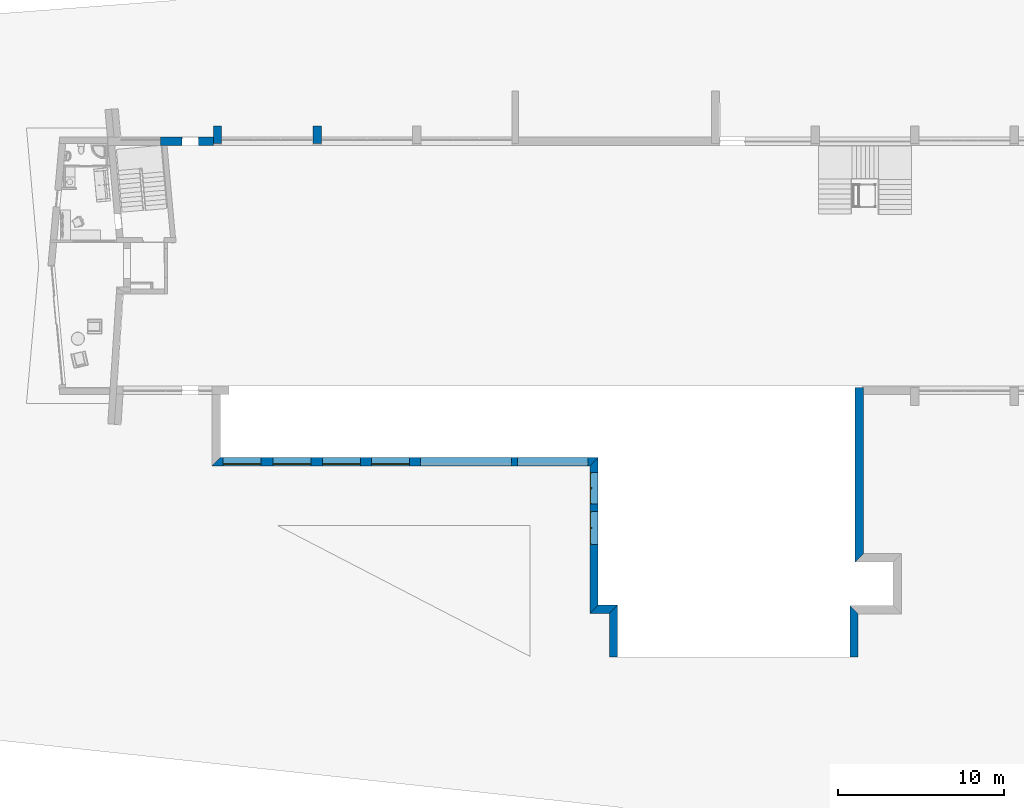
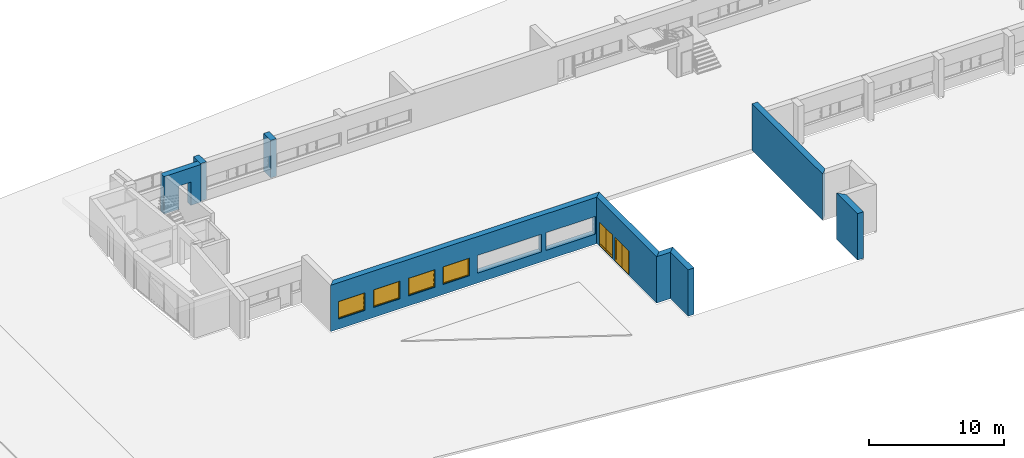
# One storey, part 3 of 36: 9 walls, 4 doors, 4 windows, 11 openings.
"""IFC2X3 building model written with IfcOpenShell, lengths in millimetres."""

from ifc_helpers import new_model, entity, si_unit, converted_unit, money_unit, direction, frame, origin_with_axes, place, context, subcontext, project, spatial, polyline, outline, extrude, open_shell, faceted_brep, surface_model, source, transform, mapped, material, material_list, layer, layer_set, layer_usage, type_object, element, fill, save


model = new_model("IFC2X3")

# Units and contexts
model_context = context("Model", 3, precision=1e-05, world=origin_with_axes(), true_north=direction((0.0, 1.0)))
body_context = subcontext(model_context, "Body", "Model", "MODEL_VIEW")
ifc_project = project(units=[si_unit("LENGTHUNIT", "METRE", prefix="MILLI"), si_unit("AREAUNIT", "SQUARE_METRE"), si_unit("VOLUMEUNIT", "CUBIC_METRE"), converted_unit("PLANEANGLEUNIT", "DEGREE", entity("IfcPlaneAngleMeasure", 0.0174532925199), si_unit("PLANEANGLEUNIT", "RADIAN"), dimensions=[0, 0, 0, 0, 0, 0, 0]), si_unit("SOLIDANGLEUNIT", "STERADIAN"), money_unit("USD"), converted_unit("TIMEUNIT", "Year", entity("IfcTimeMeasure", 31556926.0), si_unit("TIMEUNIT", "SECOND"), dimensions=[0, 0, 0, 0, 0, 0, 0]), si_unit("MASSUNIT", "GRAM"), si_unit("THERMODYNAMICTEMPERATUREUNIT", "DEGREE_CELSIUS"), si_unit("LUMINOUSINTENSITYUNIT", "LUMEN")], contexts=[model_context])

# Site, building, storey
site_placement = place(None, origin_with_axes())
site = spatial("IfcSite", under=ifc_project, at=site_placement, Name="Site", CompositionType="ELEMENT")
building_placement = place(site_placement, origin_with_axes())
building = spatial("IfcBuilding", under=site, at=building_placement, Name="Building", CompositionType="ELEMENT")
storey_placement = place(building_placement, frame((0.0, 0.0, -3400.0), z_axis=(0.0, 0.0, 1.0), x_axis=(1.0, 0.0, 0.0)))
storey = spatial("IfcBuildingStorey", under=building, at=storey_placement, Name="1KORRUS", CompositionType="ELEMENT", Elevation=-3400.0)

# Walls
ifc_material_1 = material(Name="Olemasolevad seinad tellis, uus viimistlus")
ifc_layer = layer(ifc_material_1, 500.0, ventilated="UNKNOWN")
ifc_layer_set = layer_set([ifc_layer], Name="Olemasolevad seinad tellis, uus viimistlus 500")
ifc_layer_usage_1 = layer_usage(ifc_layer_set, "AXIS2", "POSITIVE", -400.0)
wall_type = type_object("IfcWallType", Name="Olemasolevad seinad tellis, uus viimistlus 500", PredefinedType="NOTDEFINED")
wall_1_placement = place(storey_placement, frame((-9331.84569337, -19738.87569, 0.0), z_axis=(0.0, 0.0, 1.0), x_axis=(0.0, -1.0, 0.0)))
element("IfcWallStandardCase", 1, at=wall_1_placement, inside=storey, type_object=wall_type, material=ifc_layer_usage_1, Name="VS1", ObjectType="VS1", context=body_context, shape_type="SweptSolid", body=[
    extrude(outline(polyline([(0.0, -400.0), (10496.3480623, -400.0), (9996.3480623, 100.0), (0.0, 100.0), (0.0, -400.0)])), origin_with_axes(), (0.0, 0.0, 1.0), 4200.0),
])
ifc_layer_usage_2 = layer_usage(ifc_layer_set, "AXIS2", "POSITIVE", -100.0)
wall_2_placement = place(storey_placement, frame((-9948.89310513, -32962.3136981, 0.0), z_axis=(0.0, 0.0, 1.0), x_axis=(0.0, -1.0, 0.0)))
element("IfcWallStandardCase", 2, at=wall_2_placement, inside=storey, type_object=wall_type, material=ifc_layer_usage_2, Name="VS1", ObjectType="VS1", context=body_context, shape_type="SweptSolid", body=[
    extrude(outline(polyline([(-100.0, -100.0), (2989.87278855, -100.0), (2989.87278855, 400.0), (400.0, 400.0), (-100.0, -100.0)])), origin_with_axes(), (0.0, 0.0, 1.0), 4200.0),
])
ifc_layer_usage_3 = layer_usage(ifc_layer_set, "AXIS2", "POSITIVE", -100.0)
wall_3_placement = place(storey_placement, frame((-25610.3539592, -33226.0682548, 0.0), z_axis=(0.0, 0.0, 1.0), x_axis=(1.0, 0.0, 0.0)))
element("IfcWallStandardCase", 3, at=wall_3_placement, inside=storey, type_object=wall_type, material=ifc_layer_usage_3, Name="VS1", ObjectType="VS1", context=body_context, shape_type="SweptSolid", body=[
    extrude(outline(polyline([(-100.0, -100.0), (1069.9981382, -100.0), (1569.9981382, 400.0), (400.0, 400.0), (-100.0, -100.0)])), origin_with_axes(), (0.0, 0.0, 1.0), 4200.0),
])

# Wall, openings, windows
ifc_layer_usage_4 = layer_usage(ifc_layer_set, "AXIS2", "POSITIVE", -100.0)
wall_4_placement = place(storey_placement, frame((-48370.2967033, -24345.6041088, 0.0), z_axis=(0.0, 0.0, 1.0), x_axis=(1.0, 0.0, 0.0)))
wall_4 = element("IfcWallStandardCase", 4, at=wall_4_placement, inside=storey, type_object=wall_type, material=ifc_layer_usage_4, Name="VS1", ObjectType="VS1", context=body_context, shape_type="SweptSolid", body=[
    extrude(outline(polyline([(-100.0, -100.0), (22659.9427441, -100.0), (23159.9427441, 400.0), (400.0, 400.0), (-100.0, -100.0)])), origin_with_axes(), (0.0, 0.0, 1.0), 4200.0),
])
opening_1_placement = place(wall_4_placement, frame((1708.45235668, 0.0, 900.0), z_axis=(0.0, 0.0, 1.0), x_axis=(1.0, 0.0, 0.0)))
opening_1 = element("IfcOpeningElement", 5, at=opening_1_placement, cuts=wall_4, Name="Olemasolevad aknad jäävad", context=body_context, shape_type="SweptSolid", body=[
    extrude(outline(polyline([(1140.651, 1600.0), (-1140.651, 1600.0), (-1140.651, 0.0), (1140.651, 0.0), (1140.651, 1600.0)])), frame((0.0, 0.0, 0.0), z_axis=(0.0, 1.0, 0.0), x_axis=(-1.0, 0.0, 0.0)), (0.0, 0.0, 1.0), 900.0),
    extrude(outline(polyline([(1140.651, 0.0), (-1140.651, 0.0), (-1140.651, -1600.0), (1140.651, -1600.0), (1140.651, 0.0)])), frame((0.0, 0.0, 0.0), z_axis=(0.0, -1.0, 0.0), x_axis=(-1.0, 0.0, 0.0)), (0.0, 0.0, 1.0), 600.0),
])
opening_2_placement = place(wall_4_placement, frame((4714.99468383, 0.0, 900.0), z_axis=(0.0, 0.0, 1.0), x_axis=(1.0, 0.0, 0.0)))
opening_2 = element("IfcOpeningElement", 6, at=opening_2_placement, cuts=wall_4, Name="Olemasolevad aknad jäävad", context=body_context, shape_type="SweptSolid", body=[
    extrude(outline(polyline([(1140.651, 1600.0), (-1140.651, 1600.0), (-1140.651, 0.0), (1140.651, 0.0), (1140.651, 1600.0)])), frame((0.0, 0.0, 0.0), z_axis=(0.0, 1.0, 0.0), x_axis=(-1.0, 0.0, 0.0)), (0.0, 0.0, 1.0), 900.0),
    extrude(outline(polyline([(1140.651, 0.0), (-1140.651, 0.0), (-1140.651, -1600.0), (1140.651, -1600.0), (1140.651, 0.0)])), frame((0.0, 0.0, 0.0), z_axis=(0.0, -1.0, 0.0), x_axis=(-1.0, 0.0, 0.0)), (0.0, 0.0, 1.0), 600.0),
])
opening_3_placement = place(wall_4_placement, frame((7700.65100477, 0.0, 900.0), z_axis=(0.0, 0.0, 1.0), x_axis=(1.0, 0.0, 0.0)))
opening_3 = element("IfcOpeningElement", 7, at=opening_3_placement, cuts=wall_4, Name="Olemasolevad aknad jäävad", context=body_context, shape_type="SweptSolid", body=[
    extrude(outline(polyline([(1140.651, 1600.0), (-1140.651, 1600.0), (-1140.651, 0.0), (1140.651, 0.0), (1140.651, 1600.0)])), frame((0.0, 0.0, 0.0), z_axis=(0.0, 1.0, 0.0), x_axis=(-1.0, 0.0, 0.0)), (0.0, 0.0, 1.0), 900.0),
    extrude(outline(polyline([(1140.651, 0.0), (-1140.651, 0.0), (-1140.651, -1600.0), (1140.651, -1600.0), (1140.651, 0.0)])), frame((0.0, 0.0, 0.0), z_axis=(0.0, -1.0, 0.0), x_axis=(-1.0, 0.0, 0.0)), (0.0, 0.0, 1.0), 600.0),
])
opening_4_placement = place(wall_4_placement, frame((10657.6510048, 0.0, 900.0), z_axis=(0.0, 0.0, 1.0), x_axis=(1.0, 0.0, 0.0)))
opening_4 = element("IfcOpeningElement", 8, at=opening_4_placement, cuts=wall_4, Name="Olemasolevad aknad jäävad", context=body_context, shape_type="SweptSolid", body=[
    extrude(outline(polyline([(1140.651, 1600.0), (-1140.651, 1600.0), (-1140.651, 0.0), (1140.651, 0.0), (1140.651, 1600.0)])), frame((0.0, 0.0, 0.0), z_axis=(0.0, 1.0, 0.0), x_axis=(-1.0, 0.0, 0.0)), (0.0, 0.0, 1.0), 900.0),
    extrude(outline(polyline([(1140.651, 0.0), (-1140.651, 0.0), (-1140.651, -1600.0), (1140.651, -1600.0), (1140.651, 0.0)])), frame((0.0, 0.0, 0.0), z_axis=(0.0, -1.0, 0.0), x_axis=(-1.0, 0.0, 0.0)), (0.0, 0.0, 1.0), 600.0),
])
opening_5_placement = place(wall_4_placement, frame((15200.75, 0.0, 900.0), z_axis=(0.0, 0.0, 1.0), x_axis=(1.0, 0.0, 0.0)))
element("IfcOpeningElement", 9, at=opening_5_placement, cuts=wall_4, Name="Olemasolevad aknad jäävad", context=body_context, shape_type="SweptSolid", body=[
    extrude(outline(polyline([(2750.75, 1600.0), (-2750.75, 1600.0), (-2750.75, 0.0), (2750.75, 0.0), (2750.75, 1600.0)])), frame((0.0, 0.0, 0.0), z_axis=(0.0, 1.0, 0.0), x_axis=(-1.0, 0.0, 0.0)), (0.0, 0.0, 1.0), 900.0),
    extrude(outline(polyline([(2750.75, 0.0), (-2750.75, 0.0), (-2750.75, -1600.0), (2750.75, -1600.0), (2750.75, 0.0)])), frame((0.0, 0.0, 0.0), z_axis=(0.0, -1.0, 0.0), x_axis=(-1.0, 0.0, 0.0)), (0.0, 0.0, 1.0), 600.0),
])
opening_6_placement = place(wall_4_placement, frame((20428.4145939, 0.0, 900.0), z_axis=(0.0, 0.0, 1.0), x_axis=(1.0, 0.0, 0.0)))
element("IfcOpeningElement", 10, at=opening_6_placement, cuts=wall_4, Name="Olemasolevad aknad jäävad", context=body_context, shape_type="SweptSolid", body=[
    extrude(outline(polyline([(2112.585, 1600.0), (-2112.585, 1600.0), (-2112.585, 0.0), (2112.585, 0.0), (2112.585, 1600.0)])), frame((0.0, 0.0, 0.0), z_axis=(0.0, 1.0, 0.0), x_axis=(-1.0, 0.0, 0.0)), (0.0, 0.0, 1.0), 900.0),
    extrude(outline(polyline([(2112.585, 0.0), (-2112.585, 0.0), (-2112.585, -1600.0), (2112.585, -1600.0), (2112.585, 0.0)])), frame((0.0, 0.0, 0.0), z_axis=(0.0, -1.0, 0.0), x_axis=(-1.0, 0.0, 0.0)), (0.0, 0.0, 1.0), 600.0),
])
ifc_material_2 = material(Name="Background")
ifc_material_list = material_list([ifc_material_2])
window_style = type_object("IfcWindowStyle", Name="Window 19", ConstructionType="NOTDEFINED", OperationType="SINGLE_PANEL", ParameterTakesPrecedence=False, Sizeable=False)
shared_shape_1 = source(origin_with_axes(), body_context, "Body", "SurfaceModel", [
    faceted_brep([(1115.651, -100.0, 1550.0), (1115.651, -125.0, 1550.0), (1090.651, -125.0, 1550.0), (1090.651, -150.0, 1550.0), (1140.651, -150.0, 1550.0), (1140.651, -100.0, 1550.0), (1115.651, -100.0, 50.0), (1115.651, -125.0, 50.0), (1090.651, -125.0, 50.0), (1090.651, -150.0, 50.0), (1140.651, -150.0, 50.0), (1140.651, -100.0, 50.0)], [[[0, 1, 2, 3, 4, 5]], [[1, 0, 6, 7]], [[8, 2, 1, 7]], [[2, 8, 9, 3]], [[4, 3, 9, 10]], [[5, 4, 10, 11]], [[6, 0, 5, 11]], [[7, 6, 11, 10, 9, 8]]]),
    faceted_brep([(-1090.651, -125.0, 1550.0), (-1115.651, -125.0, 1550.0), (-1115.651, -100.0, 1550.0), (-1140.651, -100.0, 1550.0), (-1140.651, -150.0, 1550.0), (-1090.651, -150.0, 1550.0), (-1090.651, -125.0, 50.0), (-1115.651, -125.0, 50.0), (-1115.651, -100.0, 50.0), (-1140.651, -100.0, 50.0), (-1140.651, -150.0, 50.0), (-1090.651, -150.0, 50.0)], [[[0, 1, 2, 3, 4, 5]], [[1, 0, 6, 7]], [[8, 2, 1, 7]], [[2, 8, 9, 3]], [[9, 10, 4, 3]], [[10, 11, 5, 4]], [[6, 0, 5, 11]], [[7, 6, 11, 10, 9, 8]]]),
    faceted_brep([(-1090.651, -125.0, 50.0), (-1115.651, -125.0, 50.0), (-1115.651, -100.0, 50.0), (-1140.651, -100.0, 50.0), (-1140.651, -150.0, 50.0), (-1090.651, -150.0, 50.0), (1090.651, -125.0, 50.0), (1115.651, -125.0, 50.0), (1115.651, -125.0, 25.0), (-1115.651, -125.0, 25.0), (-1115.651, -100.0, 25.0), (1115.651, -100.0, 25.0), (1115.651, -100.0, 50.0), (1140.651, -100.0, 50.0), (1140.651, -100.0, 0.0), (-1140.651, -100.0, 0.0), (-1140.651, -150.0, 0.0), (1140.651, -150.0, 50.0), (1090.651, -150.0, 50.0), (1140.651, -150.0, 0.0)], [[[0, 1, 2, 3, 4, 5]], [[1, 0, 6, 7, 8, 9]], [[10, 2, 1, 9]], [[11, 12, 13, 14, 15, 3, 2, 10]], [[15, 16, 4, 3]], [[17, 18, 5, 4, 16, 19]], [[6, 0, 5, 18]], [[7, 6, 18, 17, 13, 12]], [[7, 12, 11, 8]], [[11, 10, 9, 8]], [[13, 17, 19, 14]], [[14, 19, 16, 15]]]),
    faceted_brep([(1115.651, -100.0, 1550.0), (1115.651, -100.0, 1575.0), (-1115.651, -100.0, 1575.0), (-1115.651, -100.0, 1550.0), (-1140.651, -100.0, 1550.0), (-1140.651, -100.0, 1600.0), (1140.651, -100.0, 1600.0), (1140.651, -100.0, 1550.0), (1115.651, -125.0, 1550.0), (1115.651, -125.0, 1575.0), (-1115.651, -125.0, 1575.0), (-1115.651, -125.0, 1550.0), (-1090.651, -125.0, 1550.0), (-1090.651, -150.0, 1550.0), (-1140.651, -150.0, 1550.0), (-1140.651, -150.0, 1600.0), (1140.651, -150.0, 1600.0), (1140.651, -150.0, 1550.0), (1090.651, -150.0, 1550.0), (1090.651, -125.0, 1550.0)], [[[0, 1, 2, 3, 4, 5, 6, 7]], [[1, 0, 8, 9]], [[2, 1, 9, 10]], [[3, 2, 10, 11]], [[11, 12, 13, 14, 4, 3]], [[4, 14, 15, 5]], [[5, 15, 16, 6]], [[6, 16, 17, 7]], [[8, 0, 7, 17, 18, 19]], [[12, 11, 10, 9, 8, 19]], [[12, 19, 18, 13]], [[14, 13, 18, 17, 16, 15]]]),
    faceted_brep([(1065.651, -125.0, 1525.0), (1115.651, -125.0, 1525.0), (1115.651, -75.0, 1525.0), (1065.651, -75.0, 1525.0), (1065.651, -125.0, 75.0), (1115.651, -125.0, 75.0), (1115.651, -75.0, 75.0), (1065.651, -75.0, 75.0)], [[[0, 1, 2, 3]], [[0, 4, 5, 1]], [[1, 5, 6, 2]], [[3, 2, 6, 7]], [[4, 0, 3, 7]], [[5, 4, 7, 6]]]),
    faceted_brep([(-1065.651, -125.0, 75.0), (-1115.651, -125.0, 75.0), (-1115.651, -75.0, 75.0), (-1065.651, -75.0, 75.0), (-1065.651, -125.0, 1525.0), (-1115.651, -125.0, 1525.0), (-1115.651, -75.0, 1525.0), (-1065.651, -75.0, 1525.0)], [[[0, 1, 2, 3]], [[0, 4, 5, 1]], [[1, 5, 6, 2]], [[3, 2, 6, 7]], [[4, 0, 3, 7]], [[5, 4, 7, 6]]]),
    faceted_brep([(-1115.651, -125.0, 25.0), (-1115.651, -125.0, 75.0), (-1115.651, -75.0, 75.0), (-1115.651, -75.0, 25.0), (1115.651, -125.0, 25.0), (1115.651, -125.0, 75.0), (1065.651, -125.0, 75.0), (-1065.651, -125.0, 75.0), (-1065.651, -75.0, 75.0), (1065.651, -75.0, 75.0), (1115.651, -75.0, 75.0), (1115.651, -75.0, 25.0)], [[[0, 1, 2, 3]], [[0, 4, 5, 6, 7, 1]], [[1, 7, 8, 2]], [[3, 2, 8, 9, 10, 11]], [[4, 0, 3, 11]], [[5, 4, 11, 10]], [[6, 5, 10, 9]], [[7, 6, 9, 8]]]),
    faceted_brep([(1115.651, -125.0, 1575.0), (1115.651, -125.0, 1525.0), (1115.651, -75.0, 1525.0), (1115.651, -75.0, 1575.0), (-1115.651, -125.0, 1575.0), (-1115.651, -125.0, 1525.0), (-1065.651, -125.0, 1525.0), (1065.651, -125.0, 1525.0), (1065.651, -75.0, 1525.0), (-1065.651, -75.0, 1525.0), (-1115.651, -75.0, 1525.0), (-1115.651, -75.0, 1575.0)], [[[0, 1, 2, 3]], [[0, 4, 5, 6, 7, 1]], [[1, 7, 8, 2]], [[3, 2, 8, 9, 10, 11]], [[4, 0, 3, 11]], [[5, 4, 11, 10]], [[6, 5, 10, 9]], [[7, 6, 9, 8]]]),
    surface_model("IfcShellBasedSurfaceModel", [(1065.651, -110.0, 75.0), (1065.651, -110.0, 1525.0), (-1065.651, -110.0, 1525.0), (-1065.651, -110.0, 75.0)], [open_shell([[[0, 1, 2, 3]]])]),
    surface_model("IfcShellBasedSurfaceModel", [(1065.651, -90.0, 75.0), (-1065.651, -90.0, 75.0), (-1065.651, -90.0, 1525.0), (1065.651, -90.0, 1525.0)], [open_shell([[[0, 1, 2, 3]]])]),
])
window_1_placement = place(opening_1_placement, frame((1140.65100478, 0.0, 0.0), z_axis=(0.0, 0.0, 1.0), x_axis=(-1.0, 0.0, 0.0)))
window_1 = element("IfcWindow", 11, at=window_1_placement, inside=storey, type_object=window_style, material=ifc_material_list, Name="Olemasolevad aknad jäävad", ObjectType="Olemasolevad aknad jäävad", OverallHeight=1600.0, OverallWidth=2281.3, context=body_context, shape_type="MappedRepresentation", body=[
    mapped(shared_shape_1, transform((1140.65100478, 100.0, 0.0))),
])
fill(opening_1, window_1)
window_2_placement = place(opening_2_placement, frame((1140.65100478, 0.0, 0.0), z_axis=(0.0, 0.0, 1.0), x_axis=(-1.0, 0.0, 0.0)))
window_2 = element("IfcWindow", 12, at=window_2_placement, inside=storey, type_object=window_style, material=ifc_material_list, Name="Olemasolevad aknad jäävad", ObjectType="Olemasolevad aknad jäävad", OverallHeight=1600.0, OverallWidth=2281.3, context=body_context, shape_type="MappedRepresentation", body=[
    mapped(shared_shape_1, transform((1140.65100478, 100.0, 0.0))),
])
fill(opening_2, window_2)
window_3_placement = place(opening_3_placement, frame((1140.65100478, 0.0, 0.0), z_axis=(0.0, 0.0, 1.0), x_axis=(-1.0, 0.0, 0.0)))
window_3 = element("IfcWindow", 13, at=window_3_placement, inside=storey, type_object=window_style, material=ifc_material_list, Name="Olemasolevad aknad jäävad", ObjectType="Olemasolevad aknad jäävad", OverallHeight=1600.0, OverallWidth=2281.3, context=body_context, shape_type="MappedRepresentation", body=[
    mapped(shared_shape_1, transform((1140.65100478, 100.0, 0.0))),
])
fill(opening_3, window_3)
window_4_placement = place(opening_4_placement, frame((1140.65100478, 0.0, 0.0), z_axis=(0.0, 0.0, 1.0), x_axis=(-1.0, 0.0, 0.0)))
window_4 = element("IfcWindow", 14, at=window_4_placement, inside=storey, type_object=window_style, material=ifc_material_list, Name="Olemasolevad aknad jäävad", ObjectType="Olemasolevad aknad jäävad", OverallHeight=1600.0, OverallWidth=2281.3, context=body_context, shape_type="MappedRepresentation", body=[
    mapped(shared_shape_1, transform((1140.65100478, 100.0, 0.0))),
])
fill(opening_4, window_4)

# Wall, openings, doors
ifc_layer_usage_5 = layer_usage(ifc_layer_set, "AXIS2", "POSITIVE", -100.0)
wall_5_placement = place(storey_placement, frame((-25610.3539592, -24345.6041088, 0.0), z_axis=(0.0, 0.0, 1.0), x_axis=(0.0, -1.0, 0.0)))
wall_5 = element("IfcWallStandardCase", 15, at=wall_5_placement, inside=storey, type_object=wall_type, material=ifc_layer_usage_5, Name="VS1", ObjectType="VS1", context=body_context, shape_type="SweptSolid", body=[
    extrude(outline(polyline([(100.0, -100.0), (8980.464146, -100.0), (8480.464146, 400.0), (-400.0, 400.0), (100.0, -100.0)])), origin_with_axes(), (0.0, 0.0, 1.0), 4200.0),
])
opening_7_placement = place(wall_5_placement, frame((1002.12965118, 0.0, 100.0), z_axis=(0.0, 0.0, 1.0), x_axis=(1.0, 0.0, 0.0)))
opening_7 = element("IfcOpeningElement", 16, at=opening_7_placement, cuts=wall_5, Name="ava", context=body_context, shape_type="SweptSolid", body=[
    extrude(outline(polyline([(-500.0, -2100.0), (500.0, -2100.0), (500.0, 0.0), (-500.0, 0.0), (-500.0, -2100.0)])), frame((0.0, 500.0, 0.0), z_axis=(0.0, -1.0, 0.0), x_axis=(-1.0, 0.0, 0.0)), (0.0, 0.0, 1.0), 1500.0),
])
opening_8_placement = place(wall_5_placement, frame((1899.91659609, 0.0, 100.0), z_axis=(0.0, 0.0, 1.0), x_axis=(1.0, 0.0, 0.0)))
opening_8 = element("IfcOpeningElement", 17, at=opening_8_placement, cuts=wall_5, Name="ava", context=body_context, shape_type="SweptSolid", body=[
    extrude(outline(polyline([(-500.0, -2100.0), (500.0, -2100.0), (500.0, 0.0), (-500.0, 0.0), (-500.0, -2100.0)])), frame((0.0, 500.0, 0.0), z_axis=(0.0, 1.0, 0.0), x_axis=(1.0, 0.0, 0.0)), (0.0, 0.0, -1.0), 1500.0),
])
opening_9_placement = place(wall_5_placement, frame((3340.54885974, 0.0, 100.0), z_axis=(0.0, 0.0, 1.0), x_axis=(1.0, 0.0, 0.0)))
opening_9 = element("IfcOpeningElement", 18, at=opening_9_placement, cuts=wall_5, Name="ava", context=body_context, shape_type="SweptSolid", body=[
    extrude(outline(polyline([(-500.0, -2100.0), (500.0, -2100.0), (500.0, 0.0), (-500.0, 0.0), (-500.0, -2100.0)])), frame((0.0, 500.0, 0.0), z_axis=(0.0, -1.0, 0.0), x_axis=(-1.0, 0.0, 0.0)), (0.0, 0.0, 1.0), 1500.0),
])
opening_10_placement = place(wall_5_placement, frame((4342.7322369, 0.0, 100.0), z_axis=(0.0, 0.0, 1.0), x_axis=(1.0, 0.0, 0.0)))
opening_10 = element("IfcOpeningElement", 19, at=opening_10_placement, cuts=wall_5, Name="ava", context=body_context, shape_type="SweptSolid", body=[
    extrude(outline(polyline([(-500.0, -2100.0), (500.0, -2100.0), (500.0, 0.0), (-500.0, 0.0), (-500.0, -2100.0)])), frame((0.0, 500.0, 0.0), z_axis=(0.0, 1.0, 0.0), x_axis=(1.0, 0.0, 0.0)), (0.0, 0.0, -1.0), 1500.0),
])
door_style_1 = type_object("IfcDoorStyle", Name="Door 19", ConstructionType="NOTDEFINED", OperationType="SINGLE_SWING_RIGHT", ParameterTakesPrecedence=False, Sizeable=False)
shared_shape_2 = source(origin_with_axes(), body_context, "Body", "SurfaceModel", [
    faceted_brep([(-460.0, -40.0, 0.0), (-460.0, -40.0, 2060.0), (-460.0, -115.0, 2060.0), (-460.0, -115.0, 0.0), (-472.0, -40.0, 2060.0), (-472.0, -40.0, 0.0), (-472.0, 0.0, 2060.0), (-500.0, 0.0, 2060.0), (-500.0, -115.0, 2060.0), (-500.0, -115.0, 0.0), (-500.0, 0.0, 0.0), (-472.0, 0.0, 0.0)], [[[0, 1, 2, 3]], [[4, 1, 0, 5]], [[4, 6, 7, 8, 2, 1]], [[2, 8, 9, 3]], [[5, 0, 3, 9, 10, 11]], [[6, 4, 5, 11]], [[6, 11, 10, 7]], [[9, 8, 7, 10]]]),
    faceted_brep([(472.0, -40.0, 2060.0), (460.0, -40.0, 2060.0), (460.0, -115.0, 2060.0), (500.0, -115.0, 2060.0), (500.0, 0.0, 2060.0), (472.0, 0.0, 2060.0), (472.0, -40.0, 0.0), (460.0, -40.0, 0.0), (460.0, -115.0, 0.0), (500.0, -115.0, 0.0), (500.0, 0.0, 0.0), (472.0, 0.0, 0.0)], [[[0, 1, 2, 3, 4, 5]], [[1, 0, 6, 7]], [[1, 7, 8, 2]], [[2, 8, 9, 3]], [[3, 9, 10, 4]], [[11, 5, 4, 10]], [[0, 5, 11, 6]], [[6, 11, 10, 9, 8, 7]]]),
    faceted_brep([(-472.0, 0.0, 2072.0), (-472.0, 0.0, 2060.0), (-500.0, 0.0, 2060.0), (-500.0, 0.0, 2100.0), (500.0, 0.0, 2100.0), (500.0, 0.0, 2060.0), (472.0, 0.0, 2060.0), (472.0, 0.0, 2072.0), (-472.0, -40.0, 2072.0), (-472.0, -40.0, 2060.0), (-460.0, -40.0, 2060.0), (-460.0, -115.0, 2060.0), (-500.0, -115.0, 2060.0), (-500.0, -115.0, 2100.0), (500.0, -115.0, 2100.0), (500.0, -115.0, 2060.0), (472.0, -40.0, 2060.0), (460.0, -115.0, 2060.0), (460.0, -40.0, 2060.0), (472.0, -40.0, 2072.0)], [[[0, 1, 2, 3, 4, 5, 6, 7]], [[1, 0, 8, 9]], [[9, 10, 11, 12, 2, 1]], [[12, 13, 3, 2]], [[13, 14, 4, 3]], [[14, 15, 5, 4]], [[16, 6, 5, 15, 17, 18]], [[7, 6, 16, 19]], [[0, 7, 19, 8]], [[16, 18, 10, 9, 8, 19]], [[10, 18, 17, 11]], [[15, 14, 13, 12, 11, 17]]]),
    faceted_brep([(472.0, 0.0, 200.0), (472.0, -40.0, 200.0), (372.0, -40.0, 200.0), (372.0, 0.0, 200.0), (472.0, 0.0, 1972.0), (472.0, -40.0, 1972.0), (372.0, -40.0, 1972.0), (372.0, 0.0, 1972.0)], [[[0, 1, 2, 3]], [[4, 5, 1, 0]], [[1, 5, 6, 2]], [[3, 2, 6, 7]], [[0, 3, 7, 4]], [[7, 6, 5, 4]]]),
    faceted_brep([(-472.0, 0.0, 200.0), (-472.0, -40.0, 200.0), (-472.0, -40.0, 1972.0), (-472.0, 0.0, 1972.0), (-372.0, 0.0, 200.0), (-372.0, -40.0, 200.0), (-372.0, -40.0, 1972.0), (-372.0, 0.0, 1972.0)], [[[0, 1, 2, 3]], [[4, 5, 1, 0]], [[1, 5, 6, 2]], [[3, 2, 6, 7]], [[0, 3, 7, 4]], [[7, 6, 5, 4]]]),
    faceted_brep([(472.0, 0.0, 0.0), (472.0, -40.0, 0.0), (-472.0, -40.0, 0.0), (-472.0, 0.0, 0.0), (472.0, 0.0, 200.0), (472.0, -40.0, 200.0), (372.0, -40.0, 200.0), (-372.0, -40.0, 200.0), (-472.0, -40.0, 200.0), (-472.0, 0.0, 200.0), (-372.0, 0.0, 200.0), (372.0, 0.0, 200.0)], [[[0, 1, 2, 3]], [[4, 5, 1, 0]], [[1, 5, 6, 7, 8, 2]], [[3, 2, 8, 9]], [[0, 3, 9, 10, 11, 4]], [[11, 6, 5, 4]], [[10, 7, 6, 11]], [[9, 8, 7, 10]]]),
    faceted_brep([(472.0, 0.0, 2072.0), (472.0, -40.0, 2072.0), (472.0, -40.0, 1972.0), (472.0, 0.0, 1972.0), (-472.0, 0.0, 2072.0), (-472.0, -40.0, 2072.0), (-472.0, -40.0, 1972.0), (-372.0, -40.0, 1972.0), (372.0, -40.0, 1972.0), (372.0, 0.0, 1972.0), (-372.0, 0.0, 1972.0), (-472.0, 0.0, 1972.0)], [[[0, 1, 2, 3]], [[4, 5, 1, 0]], [[1, 5, 6, 7, 8, 2]], [[3, 2, 8, 9]], [[0, 3, 9, 10, 11, 4]], [[11, 6, 5, 4]], [[10, 7, 6, 11]], [[9, 8, 7, 10]]]),
    surface_model("IfcShellBasedSurfaceModel", [(372.0, -14.0, 200.0), (-372.0, -14.0, 200.0), (-372.0, -14.0, 1972.0), (372.0, -14.0, 1972.0)], [open_shell([[[0, 1, 2, 3]]])]),
    surface_model("IfcShellBasedSurfaceModel", [(372.0, -26.0, 200.0), (372.0, -26.0, 1972.0), (-372.0, -26.0, 1972.0), (-372.0, -26.0, 200.0)], [open_shell([[[0, 1, 2, 3]]])]),
])
door_1_placement = place(opening_7_placement, frame((500.0, 0.0, 0.0), z_axis=(0.0, 0.0, 1.0), x_axis=(-1.0, 0.0, 0.0)))
door_1 = element("IfcDoor", 20, at=door_1_placement, inside=storey, type_object=door_style_1, material=ifc_material_list, Name="ava", ObjectType="door", OverallHeight=2100.0, OverallWidth=1000.0, context=body_context, shape_type="MappedRepresentation", body=[
    mapped(shared_shape_2, transform((500.0, 100.0, 0.0))),
])
fill(opening_7, door_1)
door_2_placement = place(opening_9_placement, frame((500.0, 0.0, 0.0), z_axis=(0.0, 0.0, 1.0), x_axis=(-1.0, 0.0, 0.0)))
door_2 = element("IfcDoor", 21, at=door_2_placement, inside=storey, type_object=door_style_1, material=ifc_material_list, Name="ava", ObjectType="door", OverallHeight=2100.0, OverallWidth=1000.0, context=body_context, shape_type="MappedRepresentation", body=[
    mapped(shared_shape_2, transform((500.0, 100.0, 0.0))),
])
fill(opening_9, door_2)
door_style_2 = type_object("IfcDoorStyle", Name="Door 19", ConstructionType="NOTDEFINED", OperationType="SINGLE_SWING_LEFT", ParameterTakesPrecedence=False, Sizeable=False)
shared_shape_3 = source(origin_with_axes(), body_context, "Body", "SurfaceModel", [
    faceted_brep([(460.0, -40.0, 0.0), (460.0, -115.0, 0.0), (460.0, -115.0, 2060.0), (460.0, -40.0, 2060.0), (472.0, -40.0, 0.0), (472.0, 0.0, 0.0), (500.0, 0.0, 0.0), (500.0, -115.0, 0.0), (500.0, -115.0, 2060.0), (472.0, -40.0, 2060.0), (500.0, 0.0, 2060.0), (472.0, 0.0, 2060.0)], [[[0, 1, 2, 3]], [[4, 5, 6, 7, 1, 0]], [[2, 1, 7, 8]], [[9, 3, 2, 8, 10, 11]], [[9, 4, 0, 3]], [[11, 5, 4, 9]], [[11, 10, 6, 5]], [[7, 6, 10, 8]]]),
    faceted_brep([(-472.0, -40.0, 2060.0), (-472.0, 0.0, 2060.0), (-500.0, 0.0, 2060.0), (-500.0, -115.0, 2060.0), (-460.0, -115.0, 2060.0), (-460.0, -40.0, 2060.0), (-472.0, -40.0, 0.0), (-472.0, 0.0, 0.0), (-500.0, 0.0, 0.0), (-500.0, -115.0, 0.0), (-460.0, -115.0, 0.0), (-460.0, -40.0, 0.0)], [[[0, 1, 2, 3, 4, 5]], [[0, 6, 7, 1]], [[7, 8, 2, 1]], [[3, 2, 8, 9]], [[4, 3, 9, 10]], [[5, 4, 10, 11]], [[5, 11, 6, 0]], [[6, 11, 10, 9, 8, 7]]]),
    faceted_brep([(472.0, 0.0, 2072.0), (-472.0, 0.0, 2072.0), (-472.0, 0.0, 2060.0), (-500.0, 0.0, 2060.0), (-500.0, 0.0, 2100.0), (500.0, 0.0, 2100.0), (500.0, 0.0, 2060.0), (472.0, 0.0, 2060.0), (472.0, -40.0, 2072.0), (-472.0, -40.0, 2072.0), (-472.0, -40.0, 2060.0), (-460.0, -40.0, 2060.0), (-460.0, -115.0, 2060.0), (-500.0, -115.0, 2060.0), (-500.0, -115.0, 2100.0), (500.0, -115.0, 2100.0), (500.0, -115.0, 2060.0), (472.0, -40.0, 2060.0), (460.0, -115.0, 2060.0), (460.0, -40.0, 2060.0)], [[[0, 1, 2, 3, 4, 5, 6, 7]], [[0, 8, 9, 1]], [[1, 9, 10, 2]], [[10, 11, 12, 13, 3, 2]], [[14, 4, 3, 13]], [[15, 5, 4, 14]], [[16, 6, 5, 15]], [[17, 7, 6, 16, 18, 19]], [[7, 17, 8, 0]], [[10, 9, 8, 17, 19, 11]], [[19, 18, 12, 11]], [[13, 12, 18, 16, 15, 14]]]),
    faceted_brep([(-472.0, 0.0, 200.0), (-372.0, 0.0, 200.0), (-372.0, -40.0, 200.0), (-472.0, -40.0, 200.0), (-472.0, 0.0, 1972.0), (-372.0, 0.0, 1972.0), (-372.0, -40.0, 1972.0), (-472.0, -40.0, 1972.0)], [[[0, 1, 2, 3]], [[0, 4, 5, 1]], [[1, 5, 6, 2]], [[3, 2, 6, 7]], [[4, 0, 3, 7]], [[5, 4, 7, 6]]]),
    faceted_brep([(472.0, 0.0, 200.0), (472.0, 0.0, 1972.0), (472.0, -40.0, 1972.0), (472.0, -40.0, 200.0), (372.0, 0.0, 200.0), (372.0, 0.0, 1972.0), (372.0, -40.0, 1972.0), (372.0, -40.0, 200.0)], [[[0, 1, 2, 3]], [[0, 4, 5, 1]], [[1, 5, 6, 2]], [[3, 2, 6, 7]], [[4, 0, 3, 7]], [[5, 4, 7, 6]]]),
    faceted_brep([(-472.0, 0.0, 0.0), (472.0, 0.0, 0.0), (472.0, -40.0, 0.0), (-472.0, -40.0, 0.0), (-472.0, 0.0, 200.0), (-372.0, 0.0, 200.0), (372.0, 0.0, 200.0), (472.0, 0.0, 200.0), (472.0, -40.0, 200.0), (372.0, -40.0, 200.0), (-372.0, -40.0, 200.0), (-472.0, -40.0, 200.0)], [[[0, 1, 2, 3]], [[0, 4, 5, 6, 7, 1]], [[1, 7, 8, 2]], [[3, 2, 8, 9, 10, 11]], [[4, 0, 3, 11]], [[5, 4, 11, 10]], [[6, 5, 10, 9]], [[7, 6, 9, 8]]]),
    faceted_brep([(-472.0, 0.0, 2072.0), (-472.0, 0.0, 1972.0), (-472.0, -40.0, 1972.0), (-472.0, -40.0, 2072.0), (472.0, 0.0, 2072.0), (472.0, 0.0, 1972.0), (372.0, 0.0, 1972.0), (-372.0, 0.0, 1972.0), (-372.0, -40.0, 1972.0), (372.0, -40.0, 1972.0), (472.0, -40.0, 1972.0), (472.0, -40.0, 2072.0)], [[[0, 1, 2, 3]], [[0, 4, 5, 6, 7, 1]], [[1, 7, 8, 2]], [[3, 2, 8, 9, 10, 11]], [[4, 0, 3, 11]], [[5, 4, 11, 10]], [[6, 5, 10, 9]], [[7, 6, 9, 8]]]),
    surface_model("IfcShellBasedSurfaceModel", [(-372.0, -14.0, 200.0), (-372.0, -14.0, 1972.0), (372.0, -14.0, 1972.0), (372.0, -14.0, 200.0)], [open_shell([[[0, 1, 2, 3]]])]),
    surface_model("IfcShellBasedSurfaceModel", [(-372.0, -26.0, 200.0), (372.0, -26.0, 200.0), (372.0, -26.0, 1972.0), (-372.0, -26.0, 1972.0)], [open_shell([[[0, 1, 2, 3]]])]),
])
door_3_placement = place(opening_8_placement, frame((500.0, 0.0, 0.0), z_axis=(0.0, 0.0, 1.0), x_axis=(-1.0, 0.0, 0.0)))
door_3 = element("IfcDoor", 22, at=door_3_placement, inside=storey, type_object=door_style_2, material=ifc_material_list, Name="ava", ObjectType="door", OverallHeight=2100.0, OverallWidth=1000.0, context=body_context, shape_type="MappedRepresentation", body=[
    mapped(shared_shape_3, transform((500.0, 100.0, 0.0))),
])
fill(opening_8, door_3)
door_4_placement = place(opening_10_placement, frame((500.0, 0.0, 0.0), z_axis=(0.0, 0.0, 1.0), x_axis=(-1.0, 0.0, 0.0)))
door_4 = element("IfcDoor", 23, at=door_4_placement, inside=storey, type_object=door_style_2, material=ifc_material_list, Name="ava", ObjectType="door", OverallHeight=2100.0, OverallWidth=1000.0, context=body_context, shape_type="MappedRepresentation", body=[
    mapped(shared_shape_3, transform((500.0, 100.0, 0.0))),
])
fill(opening_10, door_4)

# Walls
ifc_layer_usage_6 = layer_usage(ifc_layer_set, "AXIS2", "POSITIVE", -100.0)
wall_6_placement = place(storey_placement, frame((-24440.355821, -33226.0682548, 0.0), z_axis=(0.0, 0.0, 1.0), x_axis=(0.0, -1.0, 0.0)))
element("IfcWallStandardCase", 24, at=wall_6_placement, inside=storey, type_object=wall_type, material=ifc_layer_usage_6, Name="VS1", ObjectType="VS1", context=body_context, shape_type="SweptSolid", body=[
    extrude(outline(polyline([(100.0, -100.0), (2726.11823181, -100.0), (2726.11823181, 400.0), (-400.0, 400.0), (100.0, -100.0)])), origin_with_axes(), (0.0, 0.0, 1.0), 4200.0),
])
ifc_layer_usage_7 = layer_usage(ifc_layer_set, "AXIS2", "POSITIVE", -100.0)
wall_7_placement = place(storey_placement, frame((-41990.2967033, -5039.6041088, 0.0), z_axis=(0.0, 0.0, 1.0), x_axis=(0.0, 1.0, 0.0)))
element("IfcWallStandardCase", 25, at=wall_7_placement, inside=storey, type_object=wall_type, material=ifc_layer_usage_7, Name="VS1", ObjectType="VS1", context=body_context, shape_type="SweptSolid", body=[
    extrude(outline(polyline([(0.0, -100.0), (1057.40204125, -100.0), (1057.40204125, 400.0), (0.0, 400.0), (0.0, -100.0)])), origin_with_axes(), (0.0, 0.0, 1.0), 3400.0),
])

# Wall, opening
ifc_layer_usage_8 = layer_usage(ifc_layer_set, "AXIS2", "POSITIVE", -100.0)
wall_8_placement = place(storey_placement, frame((-51569.3388124, -5039.6041088, 0.0), z_axis=(0.0, 0.0, 1.0), x_axis=(1.0, 0.0, 0.0)))
wall_8 = element("IfcWallStandardCase", 26, at=wall_8_placement, inside=storey, type_object=wall_type, material=ifc_layer_usage_8, Name="VS1", ObjectType="VS1", context=body_context, shape_type="SweptSolid", body=[
    extrude(outline(polyline([(0.0, -100.0), (3175.51140757, -100.0), (3175.51140757, 400.0), (0.0, 400.0), (0.0, -100.0)])), origin_with_axes(), (0.0, 0.0, 1.0), 3400.0),
])
opening_11_placement = place(wall_8_placement, frame((1799.04210911, 0.0, 0.0), z_axis=(0.0, 0.0, 1.0), x_axis=(1.0, 0.0, 0.0)))
element("IfcOpeningElement", 27, at=opening_11_placement, cuts=wall_8, Name="VU1", context=body_context, shape_type="SweptSolid", body=[
    extrude(outline(polyline([(-500.0, -2100.0), (500.0, -2100.0), (500.0, 0.0), (-500.0, 0.0), (-500.0, -2100.0)])), frame((0.0, -500.0, 0.0), z_axis=(0.0, 1.0, 0.0), x_axis=(1.0, 0.0, 0.0)), (0.0, 0.0, 1.0), 1500.0),
])

# Wall
ifc_layer_usage_9 = layer_usage(ifc_layer_set, "AXIS2", "POSITIVE", -100.0)
wall_9_placement = place(storey_placement, frame((-47990.2967033, -5039.6041088, 0.0), z_axis=(0.0, 0.0, 1.0), x_axis=(0.0, 1.0, 0.0)))
element("IfcWallStandardCase", 28, at=wall_9_placement, inside=storey, type_object=wall_type, material=ifc_layer_usage_9, Name="VS1", ObjectType="VS1", context=body_context, shape_type="SweptSolid", body=[
    extrude(outline(polyline([(0.0, -100.0), (1057.40204125, -100.0), (1057.40204125, 400.0), (0.0, 400.0), (0.0, -100.0)])), origin_with_axes(), (0.0, 0.0, 1.0), 3400.0),
])

save(model, "model.ifc")
